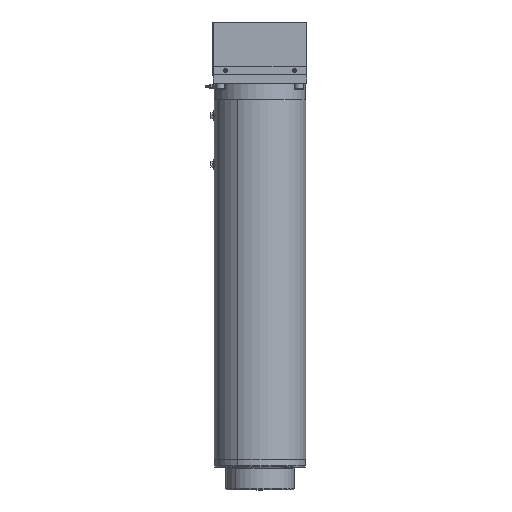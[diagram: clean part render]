
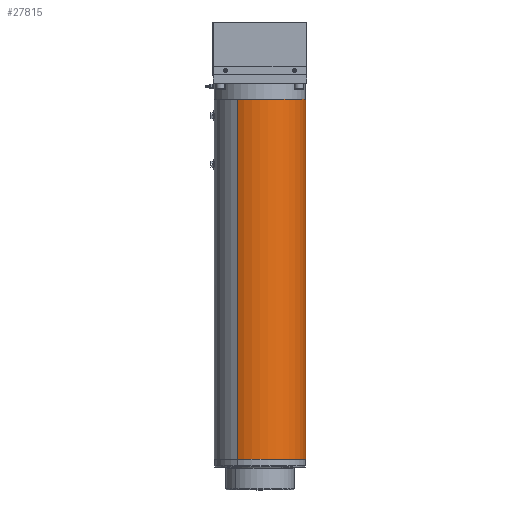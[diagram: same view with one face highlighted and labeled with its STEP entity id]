
A CAD part, top view. The second image highlights one B-rep face of the part: STEP entity #27815.
In plain terms, the highlighted cylindrical face has radius 120 mm (diameter 240 mm), a partial arc.
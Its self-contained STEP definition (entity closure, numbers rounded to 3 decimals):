
#40 = CARTESIAN_POINT ( 'NONE',  ( -183.25, 0., -19.327 ) ) ;
#588 = LINE ( 'NONE', #41002, #48907 ) ;
#1648 = DIRECTION ( 'NONE',  ( 0., -1., 0. ) ) ;
#2851 = LINE ( 'NONE', #40, #47743 ) ;
#5814 = CARTESIAN_POINT ( 'NONE',  ( -123.25, 20., -123.25 ) ) ;
#6671 = CARTESIAN_POINT ( 'NONE',  ( -183.25, 964., -19.327 ) ) ;
#6912 = ORIENTED_EDGE ( 'NONE', *, *, #46267, .T. ) ;
#8559 = AXIS2_PLACEMENT_3D ( 'NONE', #30411, #13443, #43907 ) ;
#12785 = CARTESIAN_POINT ( 'NONE',  ( -63.25, 964., -227.173 ) ) ;
#12927 = DIRECTION ( 'NONE',  ( -0.5, 0., 0.866 ) ) ;
#13443 = DIRECTION ( 'NONE',  ( 0., -1., 0. ) ) ;
#14727 = DIRECTION ( 'NONE',  ( -0.5, 0., 0.866 ) ) ;
#14999 = VERTEX_POINT ( 'NONE', #6671 ) ;
#15069 = AXIS2_PLACEMENT_3D ( 'NONE', #52318, #39021, #12927 ) ;
#17608 = CARTESIAN_POINT ( 'NONE',  ( -183.25, 20., -19.327 ) ) ;
#19290 = ORIENTED_EDGE ( 'NONE', *, *, #52597, .F. ) ;
#21636 = AXIS2_PLACEMENT_3D ( 'NONE', #5814, #1648, #14727 ) ;
#27154 = CIRCLE ( 'NONE', #21636, 120. ) ;
#27815 = ADVANCED_FACE ( 'NONE', ( #39123 ), #35012, .T. ) ;
#27912 = ORIENTED_EDGE ( 'NONE', *, *, #52697, .F. ) ;
#29530 = EDGE_CURVE ( 'NONE', #14999, #44806, #2851, .T. ) ;
#30369 = EDGE_LOOP ( 'NONE', ( #27912, #6912, #31785, #19290 ) ) ;
#30411 = CARTESIAN_POINT ( 'NONE',  ( -123.25, 964., -123.25 ) ) ;
#31592 = CARTESIAN_POINT ( 'NONE',  ( -63.25, 20., -227.173 ) ) ;
#31785 = ORIENTED_EDGE ( 'NONE', *, *, #29530, .T. ) ;
#33558 = VERTEX_POINT ( 'NONE', #12785 ) ;
#35012 = CYLINDRICAL_SURFACE ( 'NONE', #15069, 120. ) ;
#39021 = DIRECTION ( 'NONE',  ( 0., -1., 0. ) ) ;
#39123 = FACE_OUTER_BOUND ( 'NONE', #30369, .T. ) ;
#40621 = DIRECTION ( 'NONE',  ( 0., -1., 0. ) ) ;
#40911 = VERTEX_POINT ( 'NONE', #31592 ) ;
#41002 = CARTESIAN_POINT ( 'NONE',  ( -63.25, 0., -227.173 ) ) ;
#43907 = DIRECTION ( 'NONE',  ( -0.5, 0., 0.866 ) ) ;
#44806 = VERTEX_POINT ( 'NONE', #17608 ) ;
#46267 = EDGE_CURVE ( 'NONE', #33558, #14999, #56455, .T. ) ;
#47743 = VECTOR ( 'NONE', #52338, 1000. ) ;
#48907 = VECTOR ( 'NONE', #40621, 1000. ) ;
#52318 = CARTESIAN_POINT ( 'NONE',  ( -123.25, 0., -123.25 ) ) ;
#52338 = DIRECTION ( 'NONE',  ( 0., -1., 0. ) ) ;
#52597 = EDGE_CURVE ( 'NONE', #40911, #44806, #27154, .T. ) ;
#52697 = EDGE_CURVE ( 'NONE', #33558, #40911, #588, .T. ) ;
#56455 = CIRCLE ( 'NONE', #8559, 120. ) ;
